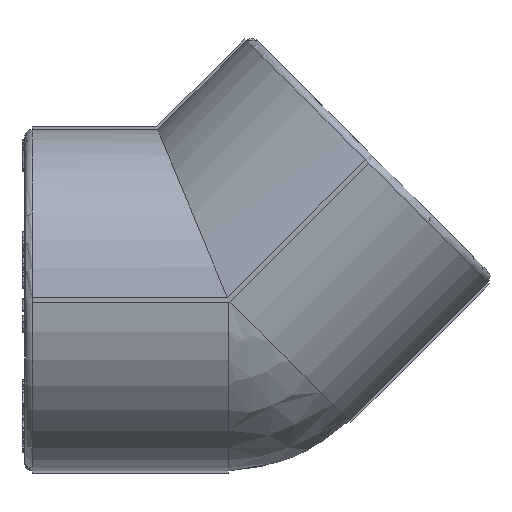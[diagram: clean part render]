
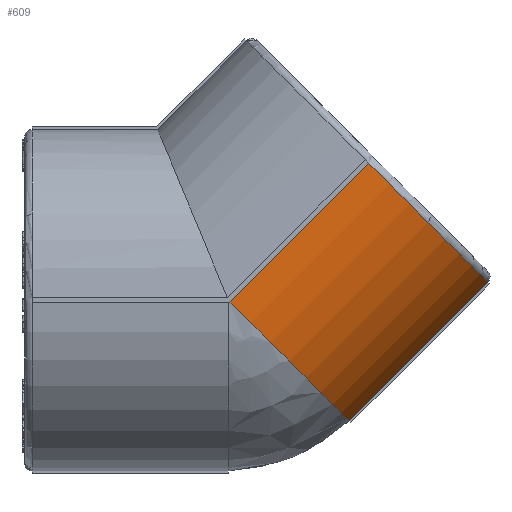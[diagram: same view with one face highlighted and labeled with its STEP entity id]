
A CAD part, left-side view. The second image highlights one B-rep face of the part: STEP entity #609.
In plain terms, the highlighted cylindrical face has radius 33.5 mm (diameter 67 mm), a partial arc.
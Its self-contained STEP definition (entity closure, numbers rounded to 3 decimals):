
#609=ADVANCED_FACE('',(#4278),#4280,.T.);
#4278=FACE_BOUND('',#4279,.T.);
#4279=EDGE_LOOP('',(#8463,#8464,#8465,#8466));
#4280=CYLINDRICAL_SURFACE('',#4281,33.5);
#4281=AXIS2_PLACEMENT_3D('',#4282,#4283,#4284);
#4282=CARTESIAN_POINT('',(0.,0.,0.));
#4283=DIRECTION('',(0.,-0.707,0.707));
#4284=DIRECTION('',(1.,0.,0.));
#8463=ORIENTED_EDGE('',*,*,#10092,.F.);
#8464=ORIENTED_EDGE('',*,*,#10081,.F.);
#8465=ORIENTED_EDGE('',*,*,#10093,.F.);
#8466=ORIENTED_EDGE('',*,*,#10059,.F.);
#10059=EDGE_CURVE('',#12668,#12671,#12672,.T.);
#10081=EDGE_CURVE('',#12703,#12705,#12706,.T.);
#10092=EDGE_CURVE('',#12705,#12668,#12722,.F.);
#10093=EDGE_CURVE('',#12671,#12703,#12723,.T.);
#12668=VERTEX_POINT('',#18389);
#12671=VERTEX_POINT('',#18395);
#12672=CIRCLE('',#18396,33.5);
#12703=VERTEX_POINT('',#18479);
#12705=VERTEX_POINT('',#18484);
#12706=CIRCLE('',#18485,33.5);
#12722=LINE('',#18528,#18529);
#12723=LINE('',#18531,#18532);
#18389=CARTESIAN_POINT('',(-0.5,-23.685,-23.685));
#18395=CARTESIAN_POINT('',(-33.496,-0.354,-0.354));
#18396=AXIS2_PLACEMENT_3D('',#18397,#18398,#18399);
#18397=CARTESIAN_POINT('',(0.,0.,0.));
#18398=DIRECTION('',(0.,0.707,-0.707));
#18399=DIRECTION('',(-0.015,-0.707,-0.707));
#18479=CARTESIAN_POINT('',(-33.496,-27.577,26.87));
#18484=CARTESIAN_POINT('',(-0.5,-50.909,3.538));
#18485=AXIS2_PLACEMENT_3D('',#18486,#18487,#18488);
#18486=CARTESIAN_POINT('',(0.,-27.224,27.224));
#18487=DIRECTION('',(0.,-0.707,0.707));
#18488=DIRECTION('',(-1.,-0.011,-0.011));
#18528=CARTESIAN_POINT('',(-0.5,-23.685,-23.685));
#18529=VECTOR('',#18530,1.);
#18530=DIRECTION('',(0.,-0.707,0.707));
#18531=CARTESIAN_POINT('',(-33.496,-0.354,-0.354));
#18532=VECTOR('',#18533,1.);
#18533=DIRECTION('',(0.,-0.707,0.707));
